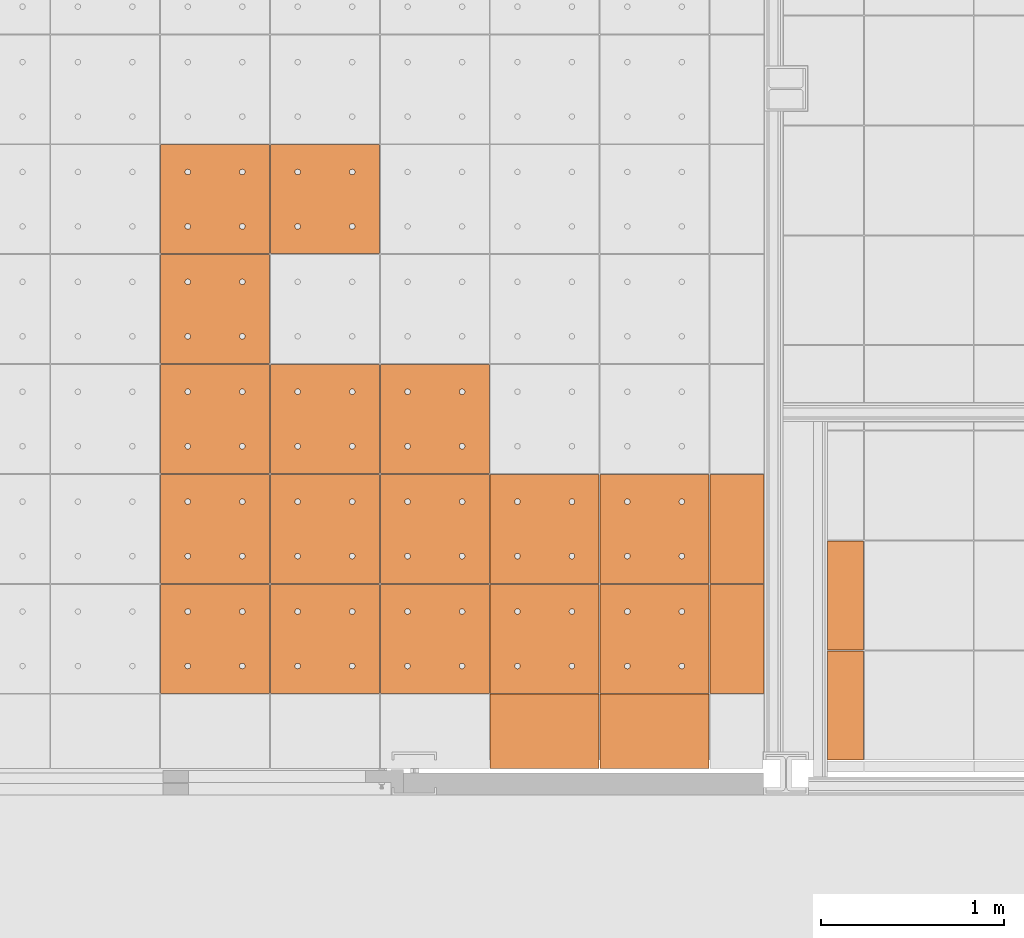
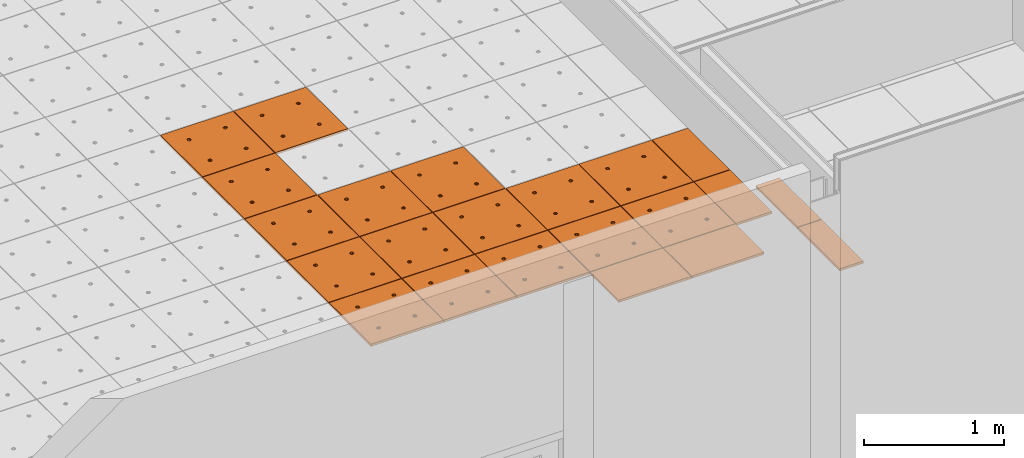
# One storey, part 250 of 338: 22 proxies, 2 elements without a shape of their own.
"""IFC2X3 building model written with IfcOpenShell, lengths in millimetres."""

from ifc_helpers import new_model, entity, si_unit, converted_unit, derived_unit, money_unit, direction, frame, origin_with_axes, place, context, subcontext, project, spatial, faceted_brep, source, transform, mapped, material, type_object, type_shapes, element, aggregate, save


model = new_model("IFC2X3")

# Units and contexts
model_context = context("Model", 3, precision=0.01, world=origin_with_axes(), true_north=direction((0.0, 1.0)))
plan_context = context("Plan", 3, precision=0.01, world=origin_with_axes(), true_north=direction((0.0, 1.0)))
body_context = subcontext(model_context, "Body", "Model", "MODEL_VIEW")
ifc_project = project(units=[si_unit("LENGTHUNIT", "METRE", prefix="MILLI"), si_unit("AREAUNIT", "SQUARE_METRE"), si_unit("VOLUMEUNIT", "CUBIC_METRE"), converted_unit("PLANEANGLEUNIT", "DEGREE", entity("IfcPlaneAngleMeasure", 0.0174532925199), si_unit("PLANEANGLEUNIT", "RADIAN"), dimensions=[0, 0, 0, 0, 0, 0, 0]), money_unit("EUR"), converted_unit("TIMEUNIT", "Year", entity("IfcTimeMeasure", 31556926.0), si_unit("TIMEUNIT", "SECOND"), dimensions=[0, 0, 1, 0, 0, 0, 0]), si_unit("MASSUNIT", "GRAM", prefix="KILO"), si_unit("THERMODYNAMICTEMPERATUREUNIT", "DEGREE_CELSIUS"), si_unit("LUMINOUSINTENSITYUNIT", "LUMEN"), si_unit("ENERGYUNIT", "JOULE", prefix="MEGA"), derived_unit("THERMALCONDUCTANCEUNIT", [(si_unit("POWERUNIT", "WATT"), 1), (si_unit("LENGTHUNIT", "METRE"), -1), (si_unit("THERMODYNAMICTEMPERATUREUNIT", "KELVIN"), -1)]), derived_unit("SPECIFICHEATCAPACITYUNIT", [(si_unit("ENERGYUNIT", "JOULE"), 1), (si_unit("MASSUNIT", "GRAM", prefix="KILO"), -1), (si_unit("THERMODYNAMICTEMPERATUREUNIT", "KELVIN"), -1)]), derived_unit("MASSDENSITYUNIT", [(si_unit("MASSUNIT", "GRAM", prefix="KILO"), 1), (si_unit("VOLUMEUNIT", "CUBIC_METRE"), -1)])], contexts=[model_context, plan_context])

# Site, building, storey
site_placement = place(None, origin_with_axes())
site = spatial("IfcSite", under=ifc_project, at=site_placement, Name="Fortuinstraat Woensdrecht", CompositionType="ELEMENT")
building_placement = place(site_placement, origin_with_axes())
building = spatial("IfcBuilding", under=site, at=building_placement, Name="IKC Fortuna", CompositionType="ELEMENT")
storey_placement = place(building_placement, origin_with_axes())
storey = spatial("IfcBuildingStorey", under=building, at=storey_placement, Name="00 begane grond", CompositionType="ELEMENT", Elevation=0.0)

# Covering, proxies
covering_type = type_object("IfcCoveringType", Name="Curtain Wall Type", PredefinedType="CEILING")
covering_1_placement = place(storey_placement, frame((20894.5342271, 16221.6737522, 2810.0), z_axis=(0.0, 0.0, 1.0), x_axis=(1.0, 0.0, 0.0)))
covering_1 = element("IfcCovering", 1, at=covering_1_placement, inside=storey, type_object=covering_type, Name="45_Plafondafwerking_P02", PredefinedType="CEILING")
ifc_material = material(Name="Gipsplaat")
building_element_proxy_type_1 = type_object("IfcBuildingElementProxyType", Name="Distinct Panel 200 x 600 x 20", PredefinedType="NOTDEFINED")
shared_shape_1 = source(origin_with_axes(), body_context, "Body", "Brep", [
    faceted_brep([(-402.5, 2.5, -10.0), (-402.5, 2.5, 10.0), (-597.5, 2.49999999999, 10.0), (-597.5, 2.49999999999, -10.0), (-402.5, 597.5, -10.0), (-402.5, 597.5, 10.0), (-597.5, 597.5, 10.0), (-597.5, 597.5, -10.0)], [[[0, 1, 2, 3]], [[4, 5, 1, 0]], [[1, 5, 6, 2]], [[3, 2, 6, 7]], [[0, 3, 7, 4]], [[7, 6, 5, 4]]]),
])
type_shapes(building_element_proxy_type_1, [shared_shape_1])
proxy_1_placement = place(covering_1_placement, frame((0.0, 933.258042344, 0.0), z_axis=(0.0, 0.0, 1.0), x_axis=(1.0, 0.0, 0.0)))
proxy_1 = element("IfcBuildingElementProxy", 2, at=proxy_1_placement, type_object=building_element_proxy_type_1, material=ifc_material, Name="__Panel-D", context=body_context, shape_type="MappedRepresentation", body=[
    mapped(shared_shape_1, transform((-499.999999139, 300.0, 0.0), x_axis=(-1.0, 0.0, 0.0), y_axis=(0.0, -1.0, 0.0), z_axis=(0.0, 0.0, 1.0))),
])
proxy_2_placement = place(covering_1_placement, frame((0.0, 333.258042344, 0.0), z_axis=(0.0, 0.0, 1.0), x_axis=(1.0, 0.0, 0.0)))
proxy_2 = element("IfcBuildingElementProxy", 3, at=proxy_2_placement, type_object=building_element_proxy_type_1, material=ifc_material, Name="__Panel-D", context=body_context, shape_type="MappedRepresentation", body=[
    mapped(shared_shape_1, transform((-499.999999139, 300.0, 0.0), x_axis=(-1.0, 0.0, 0.0), y_axis=(0.0, -1.0, 0.0), z_axis=(0.0, 0.0, 1.0))),
])
aggregate(covering_1, [proxy_1, proxy_2])

covering_2_placement = place(storey_placement, frame((17451.9845996, 24118.5314449, 3210.0), z_axis=(0.0, 0.0, 1.0), x_axis=(1.0, 0.0, 0.0)))
covering_2 = element("IfcCovering", 4, at=covering_2_placement, inside=storey, type_object=covering_type, Name="45_Plafondafwerking_P01", PredefinedType="CEILING")
building_element_proxy_type_2 = type_object("IfcBuildingElementProxyType", Name="Main Panel 600 x 600 x 20", PredefinedType="NOTDEFINED")
shared_shape_2 = source(origin_with_axes(), body_context, "Body", "Brep", [
    faceted_brep([(2.49999999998, 2.49999999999, -10.0), (300.0, 2.49999999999, -10.0), (300.0, 2.49999999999, 10.0), (2.49999999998, 2.49999999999, 10.0), (2.49999999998, 300.0, -10.0), (2.49999999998, 597.5, -10.0), (300.0, 597.5, -10.0), (597.5, 597.5, -10.0), (597.5, 300.0, -10.0), (597.5, 2.49999999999, -10.0), (166.25, 450.06232995, -10.0), (165.79423259, 452.64711538, -10.0), (164.896546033, 455.11348892, -10.0), (163.58421608, 457.38651108, -10.0), (161.897117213, 459.39711721, -10.0), (159.886511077, 461.08421608, -10.0), (157.613488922, 462.39654603, -10.0), (155.147115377, 463.29423259, -10.0), (152.562329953, 463.75, -10.0), (149.937670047, 463.75, -10.0), (147.352884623, 463.29423259, -10.0), (144.886511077, 462.39654603, -10.0), (142.613488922, 461.08421608, -10.0), (140.602882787, 459.39711721, -10.0), (138.91578392, 457.38651108, -10.0), (137.603453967, 455.11348892, -10.0), (136.705767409, 452.64711538, -10.0), (136.25, 450.06232995, -10.0), (136.25, 448.75, -10.0), (136.25, 447.43767005, -10.0), (136.705767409, 444.85288462, -10.0), (137.603453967, 442.38651108, -10.0), (138.91578392, 440.11348892, -10.0), (140.602882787, 438.10288279, -10.0), (142.613488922, 436.41578392, -10.0), (144.886511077, 435.10345397, -10.0), (147.352884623, 434.20576741, -10.0), (149.937670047, 433.75, -10.0), (152.562329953, 433.75, -10.0), (155.147115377, 434.20576741, -10.0), (157.613488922, 435.10345397, -10.0), (159.886511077, 436.41578392, -10.0), (161.897117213, 438.10288279, -10.0), (163.58421608, 440.11348892, -10.0), (164.896546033, 442.38651108, -10.0), (165.79423259, 444.85288462, -10.0), (166.25, 447.43767005, -10.0), (463.75, 450.06232995, -10.0), (463.29423259, 452.64711538, -10.0), (462.396546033, 455.11348892, -10.0), (461.08421608, 457.38651108, -10.0), (459.397117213, 459.39711721, -10.0), (457.386511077, 461.08421608, -10.0), (455.113488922, 462.39654603, -10.0), (452.647115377, 463.29423259, -10.0), (450.062329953, 463.75, -10.0), (447.437670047, 463.75, -10.0), (444.852884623, 463.29423259, -10.0), (442.386511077, 462.39654603, -10.0), (440.113488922, 461.08421608, -10.0), (438.102882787, 459.39711721, -10.0), (436.41578392, 457.38651108, -10.0), (435.103453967, 455.11348892, -10.0), (434.205767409, 452.64711538, -10.0), (433.75, 450.06232995, -10.0), (433.75, 448.75, -10.0), (433.75, 447.43767005, -10.0), (434.205767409, 444.85288462, -10.0), (435.103453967, 442.38651108, -10.0), (436.41578392, 440.11348892, -10.0), (438.102882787, 438.10288279, -10.0), (440.113488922, 436.41578392, -10.0), (442.386511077, 435.10345397, -10.0), (444.852884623, 434.20576741, -10.0), (447.437670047, 433.75, -10.0), (450.062329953, 433.75, -10.0), (452.647115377, 434.20576741, -10.0), (455.113488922, 435.10345397, -10.0), (457.386511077, 436.41578392, -10.0), (459.397117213, 438.10288279, -10.0), (461.08421608, 440.11348892, -10.0), (462.396546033, 442.38651108, -10.0), (463.29423259, 444.85288462, -10.0), (463.75, 447.43767005, -10.0), (463.75, 152.56232995, -10.0), (463.29423259, 155.14711538, -10.0), (462.396546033, 157.61348892, -10.0), (461.08421608, 159.88651108, -10.0), (459.397117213, 161.89711721, -10.0), (457.386511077, 163.58421608, -10.0), (455.113488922, 164.89654603, -10.0), (452.647115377, 165.79423259, -10.0), (450.062329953, 166.25, -10.0), (447.437670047, 166.25, -10.0), (444.852884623, 165.79423259, -10.0), (442.386511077, 164.89654603, -10.0), (440.113488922, 163.58421608, -10.0), (438.102882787, 161.89711721, -10.0), (436.41578392, 159.88651108, -10.0), (435.103453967, 157.61348892, -10.0), (434.205767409, 155.14711538, -10.0), (433.75, 152.56232995, -10.0), (433.75, 151.25, -10.0), (433.75, 149.93767005, -10.0), (434.205767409, 147.35288462, -10.0), (435.103453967, 144.88651108, -10.0), (436.41578392, 142.61348892, -10.0), (438.102882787, 140.60288279, -10.0), (440.113488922, 138.91578392, -10.0), (442.386511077, 137.60345397, -10.0), (444.852884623, 136.70576741, -10.0), (447.437670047, 136.25, -10.0), (450.062329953, 136.25, -10.0), (452.647115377, 136.70576741, -10.0), (455.113488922, 137.60345397, -10.0), (457.386511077, 138.91578392, -10.0), (459.397117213, 140.60288279, -10.0), (461.08421608, 142.61348892, -10.0), (462.396546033, 144.88651108, -10.0), (463.29423259, 147.35288462, -10.0), (463.75, 149.93767005, -10.0), (166.25, 152.56232995, -10.0), (165.79423259, 155.14711538, -10.0), (164.896546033, 157.61348892, -10.0), (163.58421608, 159.88651108, -10.0), (161.897117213, 161.89711721, -10.0), (159.886511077, 163.58421608, -10.0), (157.613488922, 164.89654603, -10.0), (155.147115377, 165.79423259, -10.0), (152.562329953, 166.25, -10.0), (149.937670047, 166.25, -10.0), (147.352884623, 165.79423259, -10.0), (144.886511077, 164.89654603, -10.0), (142.613488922, 163.58421608, -10.0), (140.602882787, 161.89711721, -10.0), (138.91578392, 159.88651108, -10.0), (137.603453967, 157.61348892, -10.0), (136.705767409, 155.14711538, -10.0), (136.25, 152.56232995, -10.0), (136.25, 151.25, -10.0), (136.25, 149.93767005, -10.0), (136.705767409, 147.35288462, -10.0), (137.603453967, 144.88651108, -10.0), (138.91578392, 142.61348892, -10.0), (140.602882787, 140.60288279, -10.0), (142.613488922, 138.91578392, -10.0), (144.886511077, 137.60345397, -10.0), (147.352884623, 136.70576741, -10.0), (149.937670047, 136.25, -10.0), (152.562329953, 136.25, -10.0), (155.147115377, 136.70576741, -10.0), (157.613488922, 137.60345397, -10.0), (159.886511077, 138.91578392, -10.0), (161.897117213, 140.60288279, -10.0), (163.58421608, 142.61348892, -10.0), (164.896546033, 144.88651108, -10.0), (165.79423259, 147.35288462, -10.0), (166.25, 149.93767005, -10.0), (597.5, 2.49999999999, 10.0), (597.5, 300.0, 10.0), (597.5, 597.5, 10.0), (300.0, 597.5, 10.0), (2.49999999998, 597.5, 10.0), (2.49999999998, 300.0, 10.0), (166.25, 450.06232995, 10.0), (166.25, 447.43767005, 10.0), (165.79423259, 444.85288462, 10.0), (164.896546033, 442.38651108, 10.0), (163.58421608, 440.11348892, 10.0), (161.897117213, 438.10288279, 10.0), (159.886511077, 436.41578392, 10.0), (157.613488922, 435.10345397, 10.0), (155.147115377, 434.20576741, 10.0), (152.562329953, 433.75, 10.0), (149.937670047, 433.75, 10.0), (147.352884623, 434.20576741, 10.0), (144.886511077, 435.10345397, 10.0), (142.613488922, 436.41578392, 10.0), (140.602882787, 438.10288279, 10.0), (138.91578392, 440.11348892, 10.0), (137.603453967, 442.38651108, 10.0), (136.705767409, 444.85288462, 10.0), (136.25, 447.43767005, 10.0), (136.25, 448.75, 10.0), (136.25, 450.06232995, 10.0), (136.705767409, 452.64711538, 10.0), (137.603453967, 455.11348892, 10.0), (138.91578392, 457.38651108, 10.0), (140.602882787, 459.39711721, 10.0), (142.613488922, 461.08421608, 10.0), (144.886511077, 462.39654603, 10.0), (147.352884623, 463.29423259, 10.0), (149.937670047, 463.75, 10.0), (152.562329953, 463.75, 10.0), (155.147115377, 463.29423259, 10.0), (157.613488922, 462.39654603, 10.0), (159.886511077, 461.08421608, 10.0), (161.897117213, 459.39711721, 10.0), (163.58421608, 457.38651108, 10.0), (164.896546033, 455.11348892, 10.0), (165.79423259, 452.64711538, 10.0), (463.75, 450.06232995, 10.0), (463.75, 447.43767005, 10.0), (463.29423259, 444.85288462, 10.0), (462.396546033, 442.38651108, 10.0), (461.08421608, 440.11348892, 10.0), (459.397117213, 438.10288279, 10.0), (457.386511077, 436.41578392, 10.0), (455.113488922, 435.10345397, 10.0), (452.647115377, 434.20576741, 10.0), (450.062329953, 433.75, 10.0), (447.437670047, 433.75, 10.0), (444.852884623, 434.20576741, 10.0), (442.386511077, 435.10345397, 10.0), (440.113488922, 436.41578392, 10.0), (438.102882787, 438.10288279, 10.0), (436.41578392, 440.11348892, 10.0), (435.103453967, 442.38651108, 10.0), (434.205767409, 444.85288462, 10.0), (433.75, 447.43767005, 10.0), (433.75, 448.75, 10.0), (433.75, 450.06232995, 10.0), (434.205767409, 452.64711538, 10.0), (435.103453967, 455.11348892, 10.0), (436.41578392, 457.38651108, 10.0), (438.102882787, 459.39711721, 10.0), (440.113488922, 461.08421608, 10.0), (442.386511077, 462.39654603, 10.0), (444.852884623, 463.29423259, 10.0), (447.437670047, 463.75, 10.0), (450.062329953, 463.75, 10.0), (452.647115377, 463.29423259, 10.0), (455.113488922, 462.39654603, 10.0), (457.386511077, 461.08421608, 10.0), (459.397117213, 459.39711721, 10.0), (461.08421608, 457.38651108, 10.0), (462.396546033, 455.11348892, 10.0), (463.29423259, 452.64711538, 10.0), (463.75, 152.56232995, 10.0), (463.75, 149.93767005, 10.0), (463.29423259, 147.35288462, 10.0), (462.396546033, 144.88651108, 10.0), (461.08421608, 142.61348892, 10.0), (459.397117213, 140.60288279, 10.0), (457.386511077, 138.91578392, 10.0), (455.113488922, 137.60345397, 10.0), (452.647115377, 136.70576741, 10.0), (450.062329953, 136.25, 10.0), (447.437670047, 136.25, 10.0), (444.852884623, 136.70576741, 10.0), (442.386511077, 137.60345397, 10.0), (440.113488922, 138.91578392, 10.0), (438.102882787, 140.60288279, 10.0), (436.41578392, 142.61348892, 10.0), (435.103453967, 144.88651108, 10.0), (434.205767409, 147.35288462, 10.0), (433.75, 149.93767005, 10.0), (433.75, 151.25, 10.0), (433.75, 152.56232995, 10.0), (434.205767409, 155.14711538, 10.0), (435.103453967, 157.61348892, 10.0), (436.41578392, 159.88651108, 10.0), (438.102882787, 161.89711721, 10.0), (440.113488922, 163.58421608, 10.0), (442.386511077, 164.89654603, 10.0), (444.852884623, 165.79423259, 10.0), (447.437670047, 166.25, 10.0), (450.062329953, 166.25, 10.0), (452.647115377, 165.79423259, 10.0), (455.113488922, 164.89654603, 10.0), (457.386511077, 163.58421608, 10.0), (459.397117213, 161.89711721, 10.0), (461.08421608, 159.88651108, 10.0), (462.396546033, 157.61348892, 10.0), (463.29423259, 155.14711538, 10.0), (166.25, 152.56232995, 10.0), (166.25, 149.93767005, 10.0), (165.79423259, 147.35288462, 10.0), (164.896546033, 144.88651108, 10.0), (163.58421608, 142.61348892, 10.0), (161.897117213, 140.60288279, 10.0), (159.886511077, 138.91578392, 10.0), (157.613488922, 137.60345397, 10.0), (155.147115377, 136.70576741, 10.0), (152.562329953, 136.25, 10.0), (149.937670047, 136.25, 10.0), (147.352884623, 136.70576741, 10.0), (144.886511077, 137.60345397, 10.0), (142.613488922, 138.91578392, 10.0), (140.602882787, 140.60288279, 10.0), (138.91578392, 142.61348892, 10.0), (137.603453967, 144.88651108, 10.0), (136.705767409, 147.35288462, 10.0), (136.25, 149.93767005, 10.0), (136.25, 151.25, 10.0), (136.25, 152.56232995, 10.0), (136.705767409, 155.14711538, 10.0), (137.603453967, 157.61348892, 10.0), (138.91578392, 159.88651108, 10.0), (140.602882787, 161.89711721, 10.0), (142.613488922, 163.58421608, 10.0), (144.886511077, 164.89654603, 10.0), (147.352884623, 165.79423259, 10.0), (149.937670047, 166.25, 10.0), (152.562329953, 166.25, 10.0), (155.147115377, 165.79423259, 10.0), (157.613488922, 164.89654603, 10.0), (159.886511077, 163.58421608, 10.0), (161.897117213, 161.89711721, 10.0), (163.58421608, 159.88651108, 10.0), (164.896546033, 157.61348892, 10.0), (165.79423259, 155.14711538, 10.0)], [[[0, 1, 2, 3]], [[0, 4, 5, 6, 7, 8, 9, 1], [10, 11, 12, 13, 14, 15, 16, 17, 18, 19, 20, 21, 22, 23, 24, 25, 26, 27, 28, 29, 30, 31, 32, 33, 34, 35, 36, 37, 38, 39, 40, 41, 42, 43, 44, 45, 46], [47, 48, 49, 50, 51, 52, 53, 54, 55, 56, 57, 58, 59, 60, 61, 62, 63, 64, 65, 66, 67, 68, 69, 70, 71, 72, 73, 74, 75, 76, 77, 78, 79, 80, 81, 82, 83], [84, 85, 86, 87, 88, 89, 90, 91, 92, 93, 94, 95, 96, 97, 98, 99, 100, 101, 102, 103, 104, 105, 106, 107, 108, 109, 110, 111, 112, 113, 114, 115, 116, 117, 118, 119, 120], [121, 122, 123, 124, 125, 126, 127, 128, 129, 130, 131, 132, 133, 134, 135, 136, 137, 138, 139, 140, 141, 142, 143, 144, 145, 146, 147, 148, 149, 150, 151, 152, 153, 154, 155, 156, 157]], [[1, 9, 158, 2]], [[3, 2, 158, 159, 160, 161, 162, 163], [164, 165, 166, 167, 168, 169, 170, 171, 172, 173, 174, 175, 176, 177, 178, 179, 180, 181, 182, 183, 184, 185, 186, 187, 188, 189, 190, 191, 192, 193, 194, 195, 196, 197, 198, 199, 200], [201, 202, 203, 204, 205, 206, 207, 208, 209, 210, 211, 212, 213, 214, 215, 216, 217, 218, 219, 220, 221, 222, 223, 224, 225, 226, 227, 228, 229, 230, 231, 232, 233, 234, 235, 236, 237], [238, 239, 240, 241, 242, 243, 244, 245, 246, 247, 248, 249, 250, 251, 252, 253, 254, 255, 256, 257, 258, 259, 260, 261, 262, 263, 264, 265, 266, 267, 268, 269, 270, 271, 272, 273, 274], [275, 276, 277, 278, 279, 280, 281, 282, 283, 284, 285, 286, 287, 288, 289, 290, 291, 292, 293, 294, 295, 296, 297, 298, 299, 300, 301, 302, 303, 304, 305, 306, 307, 308, 309, 310, 311]], [[4, 0, 3, 163]], [[5, 4, 163, 162]], [[6, 5, 162, 161]], [[7, 6, 161, 160]], [[8, 7, 160, 159]], [[9, 8, 159, 158]], [[11, 10, 164, 200]], [[12, 11, 200, 199]], [[13, 12, 199, 198]], [[14, 13, 198, 197]], [[15, 14, 197, 196]], [[16, 15, 196, 195]], [[17, 16, 195, 194]], [[18, 17, 194, 193]], [[19, 18, 193, 192]], [[20, 19, 192, 191]], [[21, 20, 191, 190]], [[22, 21, 190, 189]], [[23, 22, 189, 188]], [[24, 23, 188, 187]], [[25, 24, 187, 186]], [[26, 25, 186, 185]], [[27, 26, 185, 184]], [[28, 27, 184, 183]], [[29, 28, 183, 182]], [[30, 29, 182, 181]], [[31, 30, 181, 180]], [[32, 31, 180, 179]], [[33, 32, 179, 178]], [[34, 33, 178, 177]], [[35, 34, 177, 176]], [[36, 35, 176, 175]], [[37, 36, 175, 174]], [[38, 37, 174, 173]], [[39, 38, 173, 172]], [[40, 39, 172, 171]], [[41, 40, 171, 170]], [[42, 41, 170, 169]], [[43, 42, 169, 168]], [[44, 43, 168, 167]], [[45, 44, 167, 166]], [[46, 45, 166, 165]], [[10, 46, 165, 164]], [[48, 47, 201, 237]], [[49, 48, 237, 236]], [[50, 49, 236, 235]], [[51, 50, 235, 234]], [[52, 51, 234, 233]], [[53, 52, 233, 232]], [[54, 53, 232, 231]], [[55, 54, 231, 230]], [[56, 55, 230, 229]], [[57, 56, 229, 228]], [[58, 57, 228, 227]], [[59, 58, 227, 226]], [[60, 59, 226, 225]], [[61, 60, 225, 224]], [[62, 61, 224, 223]], [[63, 62, 223, 222]], [[64, 63, 222, 221]], [[65, 64, 221, 220]], [[66, 65, 220, 219]], [[67, 66, 219, 218]], [[68, 67, 218, 217]], [[69, 68, 217, 216]], [[70, 69, 216, 215]], [[71, 70, 215, 214]], [[72, 71, 214, 213]], [[73, 72, 213, 212]], [[74, 73, 212, 211]], [[75, 74, 211, 210]], [[76, 75, 210, 209]], [[77, 76, 209, 208]], [[78, 77, 208, 207]], [[79, 78, 207, 206]], [[80, 79, 206, 205]], [[81, 80, 205, 204]], [[82, 81, 204, 203]], [[83, 82, 203, 202]], [[47, 83, 202, 201]], [[85, 84, 238, 274]], [[86, 85, 274, 273]], [[87, 86, 273, 272]], [[88, 87, 272, 271]], [[89, 88, 271, 270]], [[90, 89, 270, 269]], [[91, 90, 269, 268]], [[92, 91, 268, 267]], [[93, 92, 267, 266]], [[94, 93, 266, 265]], [[95, 94, 265, 264]], [[96, 95, 264, 263]], [[97, 96, 263, 262]], [[98, 97, 262, 261]], [[99, 98, 261, 260]], [[100, 99, 260, 259]], [[101, 100, 259, 258]], [[102, 101, 258, 257]], [[103, 102, 257, 256]], [[104, 103, 256, 255]], [[105, 104, 255, 254]], [[106, 105, 254, 253]], [[107, 106, 253, 252]], [[108, 107, 252, 251]], [[109, 108, 251, 250]], [[110, 109, 250, 249]], [[111, 110, 249, 248]], [[112, 111, 248, 247]], [[113, 112, 247, 246]], [[114, 113, 246, 245]], [[115, 114, 245, 244]], [[116, 115, 244, 243]], [[117, 116, 243, 242]], [[118, 117, 242, 241]], [[119, 118, 241, 240]], [[120, 119, 240, 239]], [[84, 120, 239, 238]], [[122, 121, 275, 311]], [[123, 122, 311, 310]], [[124, 123, 310, 309]], [[125, 124, 309, 308]], [[126, 125, 308, 307]], [[127, 126, 307, 306]], [[128, 127, 306, 305]], [[129, 128, 305, 304]], [[130, 129, 304, 303]], [[131, 130, 303, 302]], [[132, 131, 302, 301]], [[133, 132, 301, 300]], [[134, 133, 300, 299]], [[135, 134, 299, 298]], [[136, 135, 298, 297]], [[137, 136, 297, 296]], [[138, 137, 296, 295]], [[139, 138, 295, 294]], [[140, 139, 294, 293]], [[141, 140, 293, 292]], [[142, 141, 292, 291]], [[143, 142, 291, 290]], [[144, 143, 290, 289]], [[145, 144, 289, 288]], [[146, 145, 288, 287]], [[147, 146, 287, 286]], [[148, 147, 286, 285]], [[149, 148, 285, 284]], [[150, 149, 284, 283]], [[151, 150, 283, 282]], [[152, 151, 282, 281]], [[153, 152, 281, 280]], [[154, 153, 280, 279]], [[155, 154, 279, 278]], [[156, 155, 278, 277]], [[157, 156, 277, 276]], [[121, 157, 276, 275]]]),
])
type_shapes(building_element_proxy_type_2, [shared_shape_2])
proxy_3_placement = place(covering_2_placement, frame((0.0, -7200.0, 0.0), z_axis=(0.0, 0.0, 1.0), x_axis=(1.0, 0.0, 0.0)))
proxy_3 = element("IfcBuildingElementProxy", 5, at=proxy_3_placement, type_object=building_element_proxy_type_2, material=ifc_material, Name="__600x661 Rockfon Krios", context=body_context, shape_type="MappedRepresentation", body=[
    mapped(shared_shape_2, transform((300.0, 300.0, 0.0), x_axis=(-1.0, 0.0, 0.0), y_axis=(0.0, -1.0, 0.0), z_axis=(0.0, 0.0, 1.0))),
])
proxy_4_placement = place(covering_2_placement, frame((0.0, -6600.0, 0.0), z_axis=(0.0, 0.0, 1.0), x_axis=(1.0, 0.0, 0.0)))
proxy_4 = element("IfcBuildingElementProxy", 6, at=proxy_4_placement, type_object=building_element_proxy_type_2, material=ifc_material, Name="__600x662 Rockfon Krios", context=body_context, shape_type="MappedRepresentation", body=[
    mapped(shared_shape_2, transform((300.0, 300.0, 0.0), x_axis=(-1.0, 0.0, 0.0), y_axis=(0.0, -1.0, 0.0), z_axis=(0.0, 0.0, 1.0))),
])
proxy_5_placement = place(covering_2_placement, frame((0.0, -6000.0, 0.0), z_axis=(0.0, 0.0, 1.0), x_axis=(1.0, 0.0, 0.0)))
proxy_5 = element("IfcBuildingElementProxy", 7, at=proxy_5_placement, type_object=building_element_proxy_type_2, material=ifc_material, Name="__600x663 Rockfon Krios", context=body_context, shape_type="MappedRepresentation", body=[
    mapped(shared_shape_2, transform((300.0, 300.0, 0.0), x_axis=(-1.0, 0.0, 0.0), y_axis=(0.0, -1.0, 0.0), z_axis=(0.0, 0.0, 1.0))),
])
proxy_6_placement = place(covering_2_placement, frame((0.0, -5400.0, 0.0), z_axis=(0.0, 0.0, 1.0), x_axis=(1.0, 0.0, 0.0)))
proxy_6 = element("IfcBuildingElementProxy", 8, at=proxy_6_placement, type_object=building_element_proxy_type_2, material=ifc_material, Name="__600x664 Rockfon Krios", context=body_context, shape_type="MappedRepresentation", body=[
    mapped(shared_shape_2, transform((300.0, 300.0, 0.0), x_axis=(-1.0, 0.0, 0.0), y_axis=(0.0, -1.0, 0.0), z_axis=(0.0, 0.0, 1.0))),
])
proxy_7_placement = place(covering_2_placement, frame((0.0, -4800.0, 0.0), z_axis=(0.0, 0.0, 1.0), x_axis=(1.0, 0.0, 0.0)))
proxy_7 = element("IfcBuildingElementProxy", 9, at=proxy_7_placement, type_object=building_element_proxy_type_2, material=ifc_material, Name="__600x665 Rockfon Krios", context=body_context, shape_type="MappedRepresentation", body=[
    mapped(shared_shape_2, transform((300.0, 300.0, 0.0), x_axis=(-1.0, 0.0, 0.0), y_axis=(0.0, -1.0, 0.0), z_axis=(0.0, 0.0, 1.0))),
])
proxy_8_placement = place(covering_2_placement, frame((2400.0, -6600.0, 0.0), z_axis=(0.0, 0.0, 1.0), x_axis=(1.0, 0.0, 0.0)))
proxy_8 = element("IfcBuildingElementProxy", 10, at=proxy_8_placement, type_object=building_element_proxy_type_2, material=ifc_material, Name="__600x678 Rockfon Krios", context=body_context, shape_type="MappedRepresentation", body=[
    mapped(shared_shape_2, transform((300.0, 300.0, 0.0), x_axis=(-1.0, 0.0, 0.0), y_axis=(0.0, -1.0, 0.0), z_axis=(0.0, 0.0, 1.0))),
])
proxy_9_placement = place(covering_2_placement, frame((2400.0, -7200.0, 0.0), z_axis=(0.0, 0.0, 1.0), x_axis=(1.0, 0.0, 0.0)))
proxy_9 = element("IfcBuildingElementProxy", 11, at=proxy_9_placement, type_object=building_element_proxy_type_2, material=ifc_material, Name="__600x679 Rockfon Krios", context=body_context, shape_type="MappedRepresentation", body=[
    mapped(shared_shape_2, transform((300.0, 300.0, 0.0), x_axis=(-1.0, 0.0, 0.0), y_axis=(0.0, -1.0, 0.0), z_axis=(0.0, 0.0, 1.0))),
])
proxy_10_placement = place(covering_2_placement, frame((1800.0, -6600.0, 0.0), z_axis=(0.0, 0.0, 1.0), x_axis=(1.0, 0.0, 0.0)))
proxy_10 = element("IfcBuildingElementProxy", 12, at=proxy_10_placement, type_object=building_element_proxy_type_2, material=ifc_material, Name="__600x691 Rockfon Krios", context=body_context, shape_type="MappedRepresentation", body=[
    mapped(shared_shape_2, transform((300.0, 300.0, 0.0), x_axis=(-1.0, 0.0, 0.0), y_axis=(0.0, -1.0, 0.0), z_axis=(0.0, 0.0, 1.0))),
])
proxy_11_placement = place(covering_2_placement, frame((1800.0, -7200.0, 0.0), z_axis=(0.0, 0.0, 1.0), x_axis=(1.0, 0.0, 0.0)))
proxy_11 = element("IfcBuildingElementProxy", 13, at=proxy_11_placement, type_object=building_element_proxy_type_2, material=ifc_material, Name="__600x692 Rockfon Krios", context=body_context, shape_type="MappedRepresentation", body=[
    mapped(shared_shape_2, transform((300.0, 300.0, 0.0), x_axis=(-1.0, 0.0, 0.0), y_axis=(0.0, -1.0, 0.0), z_axis=(0.0, 0.0, 1.0))),
])
proxy_12_placement = place(covering_2_placement, frame((1200.0, -6000.0, 0.0), z_axis=(0.0, 0.0, 1.0), x_axis=(1.0, 0.0, 0.0)))
proxy_12 = element("IfcBuildingElementProxy", 14, at=proxy_12_placement, type_object=building_element_proxy_type_2, material=ifc_material, Name="__600x703 Rockfon Krios", context=body_context, shape_type="MappedRepresentation", body=[
    mapped(shared_shape_2, transform((300.0, 300.0, 0.0), x_axis=(-1.0, 0.0, 0.0), y_axis=(0.0, -1.0, 0.0), z_axis=(0.0, 0.0, 1.0))),
])
proxy_13_placement = place(covering_2_placement, frame((1200.0, -6600.0, 0.0), z_axis=(0.0, 0.0, 1.0), x_axis=(1.0, 0.0, 0.0)))
proxy_13 = element("IfcBuildingElementProxy", 15, at=proxy_13_placement, type_object=building_element_proxy_type_2, material=ifc_material, Name="__600x704 Rockfon Krios", context=body_context, shape_type="MappedRepresentation", body=[
    mapped(shared_shape_2, transform((300.0, 300.0, 0.0), x_axis=(-1.0, 0.0, 0.0), y_axis=(0.0, -1.0, 0.0), z_axis=(0.0, 0.0, 1.0))),
])
proxy_14_placement = place(covering_2_placement, frame((1200.0, -7200.0, 0.0), z_axis=(0.0, 0.0, 1.0), x_axis=(1.0, 0.0, 0.0)))
proxy_14 = element("IfcBuildingElementProxy", 16, at=proxy_14_placement, type_object=building_element_proxy_type_2, material=ifc_material, Name="__600x705 Rockfon Krios", context=body_context, shape_type="MappedRepresentation", body=[
    mapped(shared_shape_2, transform((300.0, 300.0, 0.0), x_axis=(-1.0, 0.0, 0.0), y_axis=(0.0, -1.0, 0.0), z_axis=(0.0, 0.0, 1.0))),
])
proxy_15_placement = place(covering_2_placement, frame((600.0, -4800.0, 0.0), z_axis=(0.0, 0.0, 1.0), x_axis=(1.0, 0.0, 0.0)))
proxy_15 = element("IfcBuildingElementProxy", 17, at=proxy_15_placement, type_object=building_element_proxy_type_2, material=ifc_material, Name="__600x714 Rockfon Krios", context=body_context, shape_type="MappedRepresentation", body=[
    mapped(shared_shape_2, transform((300.0, 300.0, 0.0), x_axis=(-1.0, 0.0, 0.0), y_axis=(0.0, -1.0, 0.0), z_axis=(0.0, 0.0, 1.0))),
])
proxy_16_placement = place(covering_2_placement, frame((600.0, -6000.0, 0.0), z_axis=(0.0, 0.0, 1.0), x_axis=(1.0, 0.0, 0.0)))
proxy_16 = element("IfcBuildingElementProxy", 18, at=proxy_16_placement, type_object=building_element_proxy_type_2, material=ifc_material, Name="__600x716 Rockfon Krios", context=body_context, shape_type="MappedRepresentation", body=[
    mapped(shared_shape_2, transform((300.0, 300.0, 0.0), x_axis=(-1.0, 0.0, 0.0), y_axis=(0.0, -1.0, 0.0), z_axis=(0.0, 0.0, 1.0))),
])
proxy_17_placement = place(covering_2_placement, frame((600.0, -6600.0, 0.0), z_axis=(0.0, 0.0, 1.0), x_axis=(1.0, 0.0, 0.0)))
proxy_17 = element("IfcBuildingElementProxy", 19, at=proxy_17_placement, type_object=building_element_proxy_type_2, material=ifc_material, Name="__600x717 Rockfon Krios", context=body_context, shape_type="MappedRepresentation", body=[
    mapped(shared_shape_2, transform((300.0, 300.0, 0.0), x_axis=(-1.0, 0.0, 0.0), y_axis=(0.0, -1.0, 0.0), z_axis=(0.0, 0.0, 1.0))),
])
proxy_18_placement = place(covering_2_placement, frame((600.0, -7200.0, 0.0), z_axis=(0.0, 0.0, 1.0), x_axis=(1.0, 0.0, 0.0)))
proxy_18 = element("IfcBuildingElementProxy", 20, at=proxy_18_placement, type_object=building_element_proxy_type_2, material=ifc_material, Name="__600x718 Rockfon Krios", context=body_context, shape_type="MappedRepresentation", body=[
    mapped(shared_shape_2, transform((300.0, 300.0, 0.0), x_axis=(-1.0, 0.0, 0.0), y_axis=(0.0, -1.0, 0.0), z_axis=(0.0, 0.0, 1.0))),
])
building_element_proxy_type_3 = type_object("IfcBuildingElementProxyType", Name="300 x 600 x 20", PredefinedType="NOTDEFINED")
shared_shape_3 = source(origin_with_axes(), body_context, "Body", "Brep", [
    faceted_brep([(302.549576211, 2.5, -10.0), (597.5, 2.49999999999, -10.0), (597.5, 2.49999999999, 10.0), (302.549576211, 2.5, 10.0), (302.549576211, 597.5, -10.0), (597.5, 597.5, -10.0), (597.5, 597.5, 10.0), (302.549576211, 597.5, 10.0)], [[[0, 1, 2, 3]], [[0, 4, 5, 1]], [[1, 5, 6, 2]], [[3, 2, 6, 7]], [[4, 0, 3, 7]], [[5, 4, 7, 6]]]),
])
proxy_19_placement = place(covering_2_placement, frame((2849.97521203, -7200.0, 0.0), z_axis=(0.0, 0.0, 1.0), x_axis=(1.0, 0.0, 0.0)))
proxy_19 = element("IfcBuildingElementProxy", 21, at=proxy_19_placement, type_object=building_element_proxy_type_3, material=ifc_material, Name="__600x609 Rockfon Krios", context=body_context, shape_type="MappedRepresentation", body=[
    mapped(shared_shape_3, transform((450.024787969, 300.0, 0.0), x_axis=(-1.0, 0.0, 0.0), y_axis=(0.0, -1.0, 0.0), z_axis=(0.0, 0.0, 1.0))),
])
building_element_proxy_type_4 = type_object("IfcBuildingElementProxyType", Name="600 x 410 x 20", PredefinedType="NOTDEFINED")
shared_shape_4 = source(origin_with_axes(), body_context, "Body", "Brep", [
    faceted_brep([(2.5, 2.50000298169, -10.0), (597.5, 2.50000298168, -10.0), (597.5, 2.50000298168, 10.0), (2.5, 2.50000298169, 10.0), (2.50000000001, 407.734830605, -10.0), (597.5, 407.734830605, -10.0), (597.5, 407.734830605, 10.0), (2.50000000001, 407.734830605, 10.0)], [[[0, 1, 2, 3]], [[0, 4, 5, 1]], [[1, 5, 6, 2]], [[3, 2, 6, 7]], [[4, 0, 3, 7]], [[5, 4, 7, 6]]]),
])
type_shapes(building_element_proxy_type_4, [shared_shape_4])
proxy_20_placement = place(covering_2_placement, frame((2400.0, -7705.1174153, 0.0), z_axis=(0.0, 0.0, 1.0), x_axis=(1.0, 0.0, 0.0)))
proxy_20 = element("IfcBuildingElementProxy", 22, at=proxy_20_placement, type_object=building_element_proxy_type_4, material=ifc_material, Name="__600x612 Rockfon Krios", context=body_context, shape_type="MappedRepresentation", body=[
    mapped(shared_shape_4, transform((300.0, 205.117415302, 0.0), x_axis=(-1.0, 0.0, 0.0), y_axis=(0.0, -1.0, 0.0), z_axis=(0.0, 0.0, 1.0))),
])
proxy_21_placement = place(covering_2_placement, frame((1800.0, -7705.1174153, 0.0), z_axis=(0.0, 0.0, 1.0), x_axis=(1.0, 0.0, 0.0)))
proxy_21 = element("IfcBuildingElementProxy", 23, at=proxy_21_placement, type_object=building_element_proxy_type_4, material=ifc_material, Name="__600x648 Rockfon Krios", context=body_context, shape_type="MappedRepresentation", body=[
    mapped(shared_shape_4, transform((300.0, 205.117415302, 0.0), x_axis=(-1.0, 0.0, 0.0), y_axis=(0.0, -1.0, 0.0), z_axis=(0.0, 0.0, 1.0))),
])
shared_shape_5 = source(origin_with_axes(), body_context, "Body", "Brep", [
    faceted_brep([(302.549576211, 2.5, -10.0), (597.5, 2.49999999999, -10.0), (597.5, 2.49999999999, 10.0), (302.549576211, 2.5, 10.0), (302.549576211, 597.5, -10.0), (597.5, 597.5, -10.0), (597.5, 597.5, 10.0), (302.549576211, 597.5, 10.0)], [[[0, 1, 2, 3]], [[0, 4, 5, 1]], [[1, 5, 6, 2]], [[3, 2, 6, 7]], [[4, 0, 3, 7]], [[5, 4, 7, 6]]]),
])
type_shapes(building_element_proxy_type_3, [shared_shape_3, shared_shape_5])
proxy_22_placement = place(covering_2_placement, frame((2849.97521203, -6600.0, 0.0), z_axis=(0.0, 0.0, 1.0), x_axis=(1.0, 0.0, 0.0)))
proxy_22 = element("IfcBuildingElementProxy", 24, at=proxy_22_placement, type_object=building_element_proxy_type_3, material=ifc_material, Name="__600x637 Rockfon Krios", context=body_context, shape_type="MappedRepresentation", body=[
    mapped(shared_shape_5, transform((450.024787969, 300.0, 0.0), x_axis=(-1.0, 0.0, 0.0), y_axis=(0.0, -1.0, 0.0), z_axis=(0.0, 0.0, 1.0))),
])
aggregate(covering_2, [proxy_19, proxy_20, proxy_22, proxy_21, proxy_3, proxy_4, proxy_5, proxy_6, proxy_7, proxy_8, proxy_9, proxy_10, proxy_11, proxy_12, proxy_13, proxy_14, proxy_15, proxy_16, proxy_17, proxy_18])

save(model, "model.ifc")
